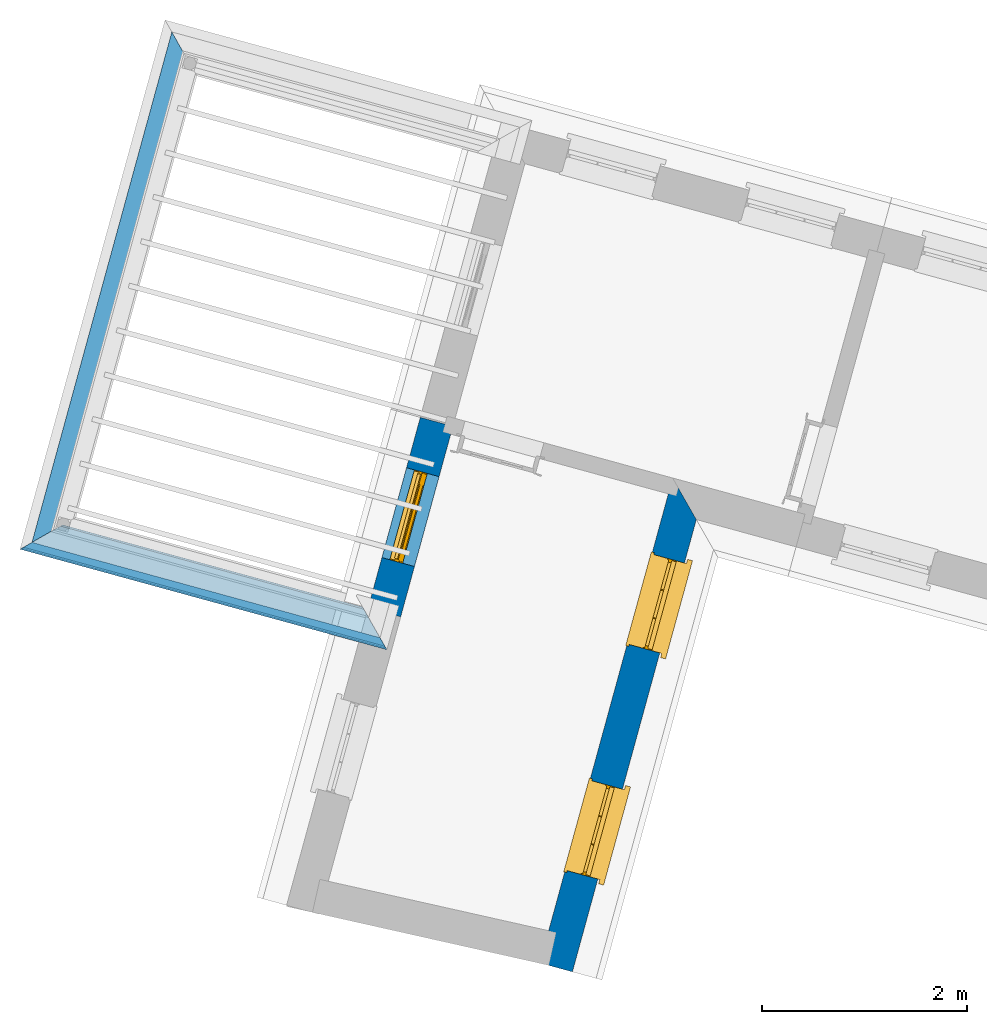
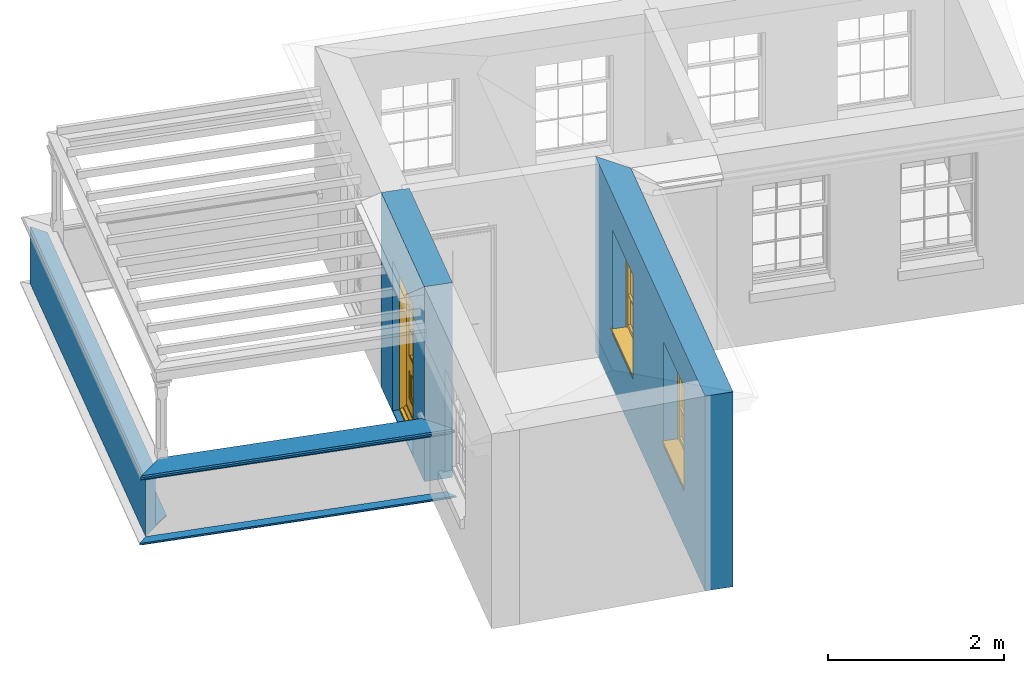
# One storey, part 2 of 5: 5 walls, 2 windows, 1 door, 3 openings.
"""IFC4 building model written with IfcOpenShell, lengths in metres."""

import ifcopenshell
import ifcopenshell.guid

model = None  # the IFC model being written
_history = None  # IfcOwnerHistory: only IFC2X3 demands one
_inside = {}  # id of a spatial element -> (the spatial element, [elements in it])
_under = {}  # id of a project, library or spatial element -> (it, [spatial elements below it])
_declared = {}  # id of a project -> (the project, [libraries it declares])
_typed = {}  # id of a type object -> (the type object, [elements of that type])
_made_of = {}  # id of a material, layer set ... -> (it, [elements and type objects made of it])


def new_model(schema):
    """Start an empty IFC model of exactly this schema.

    Asked for "IFC4X3", IfcOpenShell would pick the latest addendum, in which some entities
    have other attributes; the version numbers below select the first issue.
    IFC2X3 requires an IfcOwnerHistory on every rooted entity: one is made here for all.
    """
    global model, _history
    if schema == "IFC4X3":
        model = ifcopenshell.file(schema_version=(4, 3, 0, 0))
    else:
        model = ifcopenshell.file(schema=schema)
    _inside.clear()
    _under.clear()
    _declared.clear()
    _typed.clear()
    _made_of.clear()
    _history = None
    if model.schema == "IFC2X3":
        org = make("IfcOrganization", Name="unknown")
        user = make(
            "IfcPersonAndOrganization",
            ThePerson=make("IfcPerson", FamilyName="unknown"),
            TheOrganization=org,
        )
        app = make(
            "IfcApplication",
            ApplicationDeveloper=org,
            Version="unknown",
            ApplicationFullName="unknown",
            ApplicationIdentifier="unknown",
        )
        _history = make(
            "IfcOwnerHistory",
            OwningUser=user,
            OwningApplication=app,
            ChangeAction="ADDED",
            CreationDate=0,
        )
    return model


def make(cls, **values):
    """One entity of the class cls with the attributes given. An attribute that is None is left unset."""
    return model.create_entity(
        cls, **{name: value for name, value in values.items() if value is not None}
    )


def rooted(cls, **values):
    """An entity with a GlobalId (a new one), such as an element, a storey or a relation."""
    return make(cls, GlobalId=ifcopenshell.guid.new(), OwnerHistory=_history, **values)


def si_unit(unit_type, name, prefix=None):
    """IfcSIUnit, for example si_unit("LENGTHUNIT", "METRE", prefix="MILLI")."""
    return make("IfcSIUnit", UnitType=unit_type, Prefix=prefix, Name=name)


def assignment(units):
    """IfcUnitAssignment: the units of a project."""
    return None if units is None else make("IfcUnitAssignment", Units=units)


def point(xyz):
    """IfcCartesianPoint."""
    return None if xyz is None else make("IfcCartesianPoint", Coordinates=xyz)


def direction(xyz):
    """IfcDirection."""
    return None if xyz is None else make("IfcDirection", DirectionRatios=xyz)


def frame(location, z_axis=None, x_axis=None):
    """IfcAxis2Placement3D, a coordinate frame: its origin and axes. An axis left out is left unset."""
    return make(
        "IfcAxis2Placement3D",
        Location=point(location),
        Axis=direction(z_axis),
        RefDirection=direction(x_axis),
    )


def origin():
    """The frame at (0, 0, 0) with its axes left unset."""
    return frame((0.0, 0.0, 0.0))


def origin_with_axes():
    """The frame at (0, 0, 0) with the z axis (0, 0, 1) and the x axis (1, 0, 0) written out."""
    return frame((0.0, 0.0, 0.0), z_axis=(0.0, 0.0, 1.0), x_axis=(1.0, 0.0, 0.0))


def place(relative_to, where):
    """IfcLocalPlacement: puts the frame where relative to a parent placement (None: the world)."""
    return make(
        "IfcLocalPlacement", PlacementRelTo=relative_to, RelativePlacement=where
    )


def context(
    kind, dimensions, precision=None, world=None, true_north=None, identifier=None
):
    """IfcGeometricRepresentationContext, for example the 3D "Model" context."""
    return make(
        "IfcGeometricRepresentationContext",
        ContextIdentifier=identifier,
        ContextType=kind,
        CoordinateSpaceDimension=dimensions,
        Precision=precision,
        WorldCoordinateSystem=world,
        TrueNorth=true_north,
    )


def subcontext(parent, identifier, kind, view, scale=None):
    """IfcGeometricRepresentationSubContext, for example "Body" below "Model"."""
    return make(
        "IfcGeometricRepresentationSubContext",
        ContextIdentifier=identifier,
        ContextType=kind,
        ParentContext=parent,
        TargetScale=scale,
        TargetView=view,
    )


def project(units=None, contexts=None):
    """IfcProject with its units and contexts."""
    return rooted(
        "IfcProject",
        Name="project",
        RepresentationContexts=contexts,
        UnitsInContext=assignment(units),
    )


def spatial(cls, under=None, at=None, **own):
    """A site, building, storey or space (cls), placed at a placement, below another one or the project."""
    s = rooted(cls, ObjectPlacement=at, **own)
    if under is not None:
        _under.setdefault(under.id(), (under, []))[1].append(s)
    return s


def polyline(points):
    """IfcPolyline through the points."""
    return make("IfcPolyline", Points=[point(p) for p in points])


def outline(outer, holes=None, kind="AREA"):
    """IfcArbitraryClosedProfileDef: a profile drawn as a closed curve; with holes, ...WithVoids."""
    if holes is None:
        return make("IfcArbitraryClosedProfileDef", ProfileType=kind, OuterCurve=outer)
    return make(
        "IfcArbitraryProfileDefWithVoids",
        ProfileType=kind,
        OuterCurve=outer,
        InnerCurves=holes,
    )


def extrude(swept, where, along, depth):
    """IfcExtrudedAreaSolid: the profile swept, set in the frame where, extruded along a direction by depth."""
    return make(
        "IfcExtrudedAreaSolid",
        SweptArea=swept,
        Position=where,
        ExtrudedDirection=direction(along),
        Depth=depth,
    )


def clip(a, b, op="DIFFERENCE"):
    """IfcBooleanClippingResult: the solid a cut by the half space b."""
    return make(
        "IfcBooleanClippingResult", Operator=op, FirstOperand=a, SecondOperand=b
    )


def halfspace(plane, agree):
    """IfcHalfSpaceSolid: all space on one side of the plane z = 0 of the frame plane."""
    return make(
        "IfcHalfSpaceSolid",
        BaseSurface=make("IfcPlane", Position=plane),
        AgreementFlag=agree,
    )


def faces_of(points, faces, orient=None, outer=None):
    """IfcFace entities. A face is a list of loops; a loop is a list of indices into points, from 0.

    orient and outer hold one flag for each loop. By default every Orientation is true, the
    first loop of a face is its IfcFaceOuterBound and the others are IfcFaceBound.
    """
    made = []
    for i, loops in enumerate(faces):
        bounds = []
        for j, loop in enumerate(loops):
            is_outer = j == 0 if outer is None else outer[i][j]
            bounds.append(
                make(
                    "IfcFaceOuterBound" if is_outer else "IfcFaceBound",
                    Bound=make("IfcPolyLoop", Polygon=[points[k] for k in loop]),
                    Orientation=True if orient is None else orient[i][j],
                )
            )
        made.append(make("IfcFace", Bounds=bounds))
    return made


def faceted_brep(points, faces, orient=None, outer=None, voids=None):
    """IfcFacetedBrep: a solid bounded by flat faces; with voids (closed shells), ...WithVoids."""
    shared = [point(p) for p in points]
    hull = make("IfcClosedShell", CfsFaces=faces_of(shared, faces, orient, outer))
    if voids is None:
        return make("IfcFacetedBrep", Outer=hull)
    return make(
        "IfcFacetedBrepWithVoids",
        Outer=hull,
        Voids=[
            make(cls, CfsFaces=faces_of(shared, fs, o, b)) for cls, fs, o, b in voids
        ],
    )


def shape(context_of_items, identifier, shape_type, items):
    """IfcShapeRepresentation: the items that make up one representation, for example the "Body"."""
    return make(
        "IfcShapeRepresentation",
        ContextOfItems=context_of_items,
        RepresentationIdentifier=identifier,
        RepresentationType=shape_type,
        Items=items,
    )


def source(mapping_origin, context_of_items, identifier, shape_type, items):
    """IfcRepresentationMap: a shape defined once, which mapped items show again and again."""
    return make(
        "IfcRepresentationMap",
        MappingOrigin=mapping_origin,
        MappedRepresentation=shape(context_of_items, identifier, shape_type, items),
    )


def transform(
    local_origin,
    x_axis=None,
    y_axis=None,
    z_axis=None,
    scale=None,
    scale2=None,
    scale3=None,
    uniform=True,
):
    """IfcCartesianTransformationOperator3D, or its non-uniform kind. x_axis, y_axis, z_axis: its Axis1, 2, 3."""
    if uniform:
        return make(
            "IfcCartesianTransformationOperator3D",
            Axis1=direction(x_axis),
            Axis2=direction(y_axis),
            LocalOrigin=point(local_origin),
            Scale=scale,
            Axis3=direction(z_axis),
        )
    return make(
        "IfcCartesianTransformationOperator3DnonUniform",
        Axis1=direction(x_axis),
        Axis2=direction(y_axis),
        LocalOrigin=point(local_origin),
        Scale=scale,
        Axis3=direction(z_axis),
        Scale2=scale2,
        Scale3=scale3,
    )


def mapped(mapping_source, mapping_target):
    """IfcMappedItem: shows the shape of a source again, moved by a transform."""
    return make(
        "IfcMappedItem", MappingSource=mapping_source, MappingTarget=mapping_target
    )


def material(Name=None, Category=None):
    """IfcMaterial."""
    return make("IfcMaterial", Name=Name, Category=Category)


def layer(
    of_material, thickness, ventilated=None, Name=None, Category=None, Priority=None
):
    """IfcMaterialLayer: one layer of a wall or slab, of a material (None: an air gap)."""
    return make(
        "IfcMaterialLayer",
        Material=of_material,
        LayerThickness=thickness,
        IsVentilated=ventilated,
        Name=Name,
        Category=Category,
        Priority=Priority,
    )


def layer_set(layers, Name=None):
    """IfcMaterialLayerSet."""
    return make("IfcMaterialLayerSet", MaterialLayers=layers, LayerSetName=Name)


def layer_usage(for_layer_set, set_direction, sense, offset, extent=None):
    """IfcMaterialLayerSetUsage: how a layer set lies in its element."""
    return make(
        "IfcMaterialLayerSetUsage",
        ForLayerSet=for_layer_set,
        LayerSetDirection=set_direction,
        DirectionSense=sense,
        OffsetFromReferenceLine=offset,
        ReferenceExtent=extent,
    )


def material_profile(
    of_material, cross_section, Name=None, Category=None, Priority=None
):
    """IfcMaterialProfile: a cross section and its material."""
    return make(
        "IfcMaterialProfile",
        Name=Name,
        Material=of_material,
        Profile=cross_section,
        Priority=Priority,
        Category=Category,
    )


def profile_set(profiles, Name=None, composite=None):
    """IfcMaterialProfileSet."""
    return make(
        "IfcMaterialProfileSet",
        Name=Name,
        MaterialProfiles=profiles,
        CompositeProfile=composite,
    )


def profile_usage(for_profile_set, cardinal=None, extent=None):
    """IfcMaterialProfileSetUsage: how a profile set lies along its element."""
    return make(
        "IfcMaterialProfileSetUsage",
        ForProfileSet=for_profile_set,
        CardinalPoint=cardinal,
        ReferenceExtent=extent,
    )


def made_of(thing, what):
    """Note that an element or type object is made of a material, layer set ...; save() writes the relation."""
    if what is not None:
        _made_of.setdefault(what.id(), (what, []))[1].append(thing)
    return thing


def type_object(cls, material=None, **own):
    """A type object (cls), such as IfcWallType, which elements share."""
    return made_of(rooted(cls, **own), material)


def type_shapes(of_type, sources):
    """Give a type object the sources (RepresentationMaps) that its elements show as mapped items."""
    of_type.RepresentationMaps = sources


def element(
    cls,
    number,
    at=None,
    inside=None,
    cuts=None,
    type_object=None,
    material=None,
    context=None,
    identifier="Body",
    shape_type=None,
    held_by="IfcProductDefinitionShape",
    body=None,
    shapes=None,
    **own,
):
    """One element of the class cls, such as IfcWall. Its Tag is "e" and its number.

    at: its placement. inside: the storey or other place that contains it. cuts: it is an
    opening in that element (IfcRelVoidsElement). A single representation is given by context,
    identifier, shape_type and body (its items); several are given by shapes. held_by: the class
    of the entity that holds the representations. save() writes the other relations.
    """
    e = rooted(cls, Tag="e%d" % number, ObjectPlacement=at, **own)
    if body is not None:
        shapes = [shape(context, identifier, shape_type, body)]
    if shapes is not None:
        e.Representation = make(held_by, Representations=shapes)
    if inside is not None:
        _inside.setdefault(inside.id(), (inside, []))[1].append(e)
    if cuts is not None:
        rooted(
            "IfcRelVoidsElement", RelatingBuildingElement=cuts, RelatedOpeningElement=e
        )
    if type_object is not None:
        _typed.setdefault(type_object.id(), (type_object, []))[1].append(e)
    return made_of(e, material)


def fill(opening, filler):
    """IfcRelFillsElement: the door or window that sits in an opening."""
    return rooted(
        "IfcRelFillsElement",
        RelatingOpeningElement=opening,
        RelatedBuildingElement=filler,
    )


def aggregate(whole, parts):
    """IfcRelAggregates: a whole, such as a stair, and the parts it consists of."""
    return rooted("IfcRelAggregates", RelatingObject=whole, RelatedObjects=parts)


def save(model, path):
    """Write the relations noted so far, then the file.

    IfcRelAggregates (storeys below a building ...), IfcRelContainedInSpatialStructure (elements
    in a storey), IfcRelDefinesByType, IfcRelAssociatesMaterial and IfcRelDeclares: one each for
    every whole, place, type object, material and project.
    """
    for whole, parts in _under.values():
        aggregate(whole, parts)
    for where, things in _inside.values():
        rooted(
            "IfcRelContainedInSpatialStructure",
            RelatedElements=things,
            RelatingStructure=where,
        )
    for kind, things in _typed.values():
        rooted("IfcRelDefinesByType", RelatedObjects=things, RelatingType=kind)
    for what, things in _made_of.values():
        rooted("IfcRelAssociatesMaterial", RelatedObjects=things, RelatingMaterial=what)
    for by, libraries in _declared.values():
        rooted("IfcRelDeclares", RelatingContext=by, RelatedDefinitions=libraries)
    model.write(path)


model = new_model("IFC4")

# Units and contexts
model_context = context("Model", 3, world=origin_with_axes())
body_context = subcontext(model_context, "Body", "Model", "MODEL_VIEW")
ifc_project = project(units=[si_unit("PLANEANGLEUNIT", "RADIAN"), si_unit("MASSUNIT", "GRAM", prefix="KILO"), si_unit("FORCEUNIT", "NEWTON", prefix="KILO"), si_unit("LENGTHUNIT", "METRE"), si_unit("AREAUNIT", "SQUARE_METRE"), si_unit("VOLUMEUNIT", "CUBIC_METRE")], contexts=[model_context, model_context])

# Sites, building, storey
site_1_placement = place(None, origin_with_axes())
site_1 = spatial("IfcSite", under=ifc_project, at=site_1_placement, Name="Tamar")
site_2_placement = place(site_1_placement, origin_with_axes())
site_2 = spatial("IfcSite", under=site_1, at=site_2_placement, Name="Site plot-29", CompositionType="ELEMENT")
building_placement = place(None, origin_with_axes())
building = spatial("IfcBuilding", under=site_2, at=building_placement, Name="Building plot-29", CompositionType="ELEMENT")
storey_placement = place(None, frame((0.0, 0.0, 30.55), z_axis=(0.0, 0.0, 1.0), x_axis=(1.0, 0.0, 0.0)))
storey = spatial("IfcBuildingStorey", under=building, at=storey_placement, Name="plot-29 2", CompositionType="ELEMENT", Elevation=30.55)

# Wall, openings, windows
ifc_material = material(Name="Masonry")
ifc_layer = layer(ifc_material, 0.33, ventilated=False)
ifc_layer_set = layer_set([ifc_layer], Name="exterior_0.08_0.25")
ifc_layer_usage = layer_usage(ifc_layer_set, "AXIS2", "POSITIVE", -0.25)
wall_type_1 = type_object("IfcWallType", Name="exterior_0.08_0.25", PredefinedType="SOLIDWALL", material=ifc_layer_set)
wall_1_placement = place(storey_placement, frame((274.630680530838, 257.489366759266, 0.0), z_axis=(0.0, 0.0, 1.0), x_axis=(0.264255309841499, 0.964452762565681, 0.0)))
wall_1 = element("IfcWall", 1, at=wall_1_placement, inside=storey, type_object=wall_type_1, material=ifc_layer_usage, Name="exterior", context=body_context, shape_type="SweptSolid", body=[
    extrude(outline(polyline([(-0.250000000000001, 0.0800000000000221), (-0.250000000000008, -0.250000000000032), (4.33079801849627, -0.250000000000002), (4.66079801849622, 0.0800000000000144), (-0.250000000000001, 0.0800000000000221)])), origin_with_axes(), (0.0, 0.0, 1.0), 2.7),
])
opening_1_placement = place(wall_1_placement, frame((0.690199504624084, 0.0, 0.75)))
opening_1 = element("IfcOpeningElement", 2, at=opening_1_placement, cuts=wall_1, Name="My Opening", ObjectType="Opening", context=body_context, shape_type="SweptSolid", body=[
    extrude(outline(polyline([(0.0, -0.270000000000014), (0.909999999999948, -0.270000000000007), (0.909999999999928, 1.1), (-2.03170813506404e-14, 1.09999999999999), (0.0, -0.270000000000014)])), origin_with_axes(), (0.0, 0.0, 1.0), 1.445),
])
opening_2_placement = place(wall_1_placement, frame((2.98059851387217, 0.0, 0.75)))
opening_2 = element("IfcOpeningElement", 3, at=opening_2_placement, cuts=wall_1, Name="My Opening", ObjectType="Opening", context=body_context, shape_type="SweptSolid", body=[
    extrude(outline(polyline([(0.0, -0.270000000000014), (0.909999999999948, -0.270000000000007), (0.909999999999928, 1.1), (-1.99840144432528e-14, 1.09999999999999), (0.0, -0.270000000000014)])), origin_with_axes(), (0.0, 0.0, 1.0), 1.445),
])
window_type = type_object("IfcWindowType", Name="sash_shorter", PartitioningType="DOUBLE_PANEL_HORIZONTAL", PredefinedType="NOTDEFINED")
shared_shape_1 = source(origin(), body_context, "Body", "Brep", [
    faceted_brep([(0.876875, 0.145, 0.999097), (0.876875, 0.145, 1.411875), (0.9, 0.145, 1.435), (0.033125, 0.145, 1.411875), (0.033125, 0.145, 0.999097), (0.01, 0.145, 1.435), (0.033125, 0.115, 1.411875), (0.01, 0.115, 1.435), (0.033125, 0.115, 0.999097), (0.876875, 0.115, 1.411875), (0.876875, 0.115, 0.999097), (0.9, 0.115, 1.435), (0.033125, 0.145, 0.960972), (0.01, 0.145, 0.960972), (0.033125, 0.145, 0.548195), (0.876875, 0.145, 0.960972), (0.876875, 0.145, 0.548195), (0.9, 0.145, 0.960972), (0.876875, 0.145, 0.538195), (0.876875, 0.145, 0.125417), (0.9, 0.145, 0.077167), (0.033125, 0.145, 0.125417), (0.033125, 0.145, 0.538195), (0.01, 0.145, 0.077167), (0.9, 0.115, 0.960972), (0.01, 0.115, 0.960972), (-0.0425, 0.0, 0.01), (-0.0425, -0.05, 0.001667), (0.0, 0.0, 0.01), (0.9525, 0.0, 0.01), (0.91, 0.0, 0.01), (0.9525, -0.05, 0.001667), (-0.02, 0.33, 0.077167), (0.0, 0.33, 0.077167), (-0.02, 0.36, 0.077167), (0.0, 0.19, 0.077167), (0.01, 0.19, 0.077167), (0.91, 0.19, 0.077167), (0.91, 0.33, 0.077167), (0.9, 0.19, 0.077167), (0.93, 0.33, 0.077167), (0.93, 0.36, 0.077167), (0.01, 0.145, 0.999097), (0.01, 0.175, 0.999097), (0.9, 0.145, 0.999097), (0.9, 0.175, 0.999097), (0.876875, 0.175, 0.125417), (0.876875, 0.175, 0.538195), (0.9, 0.175, 0.077167), (0.876875, 0.175, 0.548195), (0.876875, 0.175, 0.960972), (0.033125, 0.175, 0.125417), (0.01, 0.175, 0.077167), (0.033125, 0.175, 0.538195), (0.033125, 0.175, 0.960972), (0.033125, 0.175, 0.548195), (-0.02, 0.33, 0.052167), (-0.02, 0.36, 0.052167), (0.93, 0.36, 0.052167), (0.93, 0.33, 0.052167), (0.91, 0.33, 0.052167), (0.0, 0.33, 0.052167), (0.91, 0.1, 0.026667), (0.0, 0.1, 0.026667), (-0.0425, -0.05, -0.123333), (0.9525, -0.05, -0.123333), (-0.0425, 0.0, -0.123333), (0.9525, 0.0, -0.123333), (0.01, 0.19, 1.435), (0.9, 0.19, 1.435), (0.0, 0.19, 1.445), (0.91, 0.19, 1.445), (0.01, 0.1, 0.077167), (0.9, 0.1, 0.077167), (0.592292, 0.145, 0.125417), (0.592292, 0.175, 0.125417), (0.317708, 0.175, 0.125417), (0.317708, 0.145, 0.125417), (0.592292, 0.145, 0.548195), (0.317708, 0.145, 0.548195), (0.317708, 0.145, 0.538195), (0.592292, 0.145, 0.538195), (0.592292, 0.175, 0.548195), (0.317708, 0.175, 0.548195), (0.602292, 0.175, 0.548195), (0.602292, 0.145, 0.548195), (0.317708, 0.175, 0.538195), (0.307708, 0.175, 0.125417), (0.307708, 0.175, 0.538195), (0.602292, 0.175, 0.538195), (0.602292, 0.175, 0.125417), (0.592292, 0.175, 0.538195), (0.307708, 0.175, 0.548195), (0.317708, 0.175, 0.960972), (0.307708, 0.175, 0.960972), (0.602292, 0.175, 0.960972), (0.592292, 0.175, 0.960972), (0.307708, 0.145, 0.538195), (0.307708, 0.145, 0.125417), (0.307708, 0.145, 0.548195), (0.307708, 0.145, 0.960972), (0.592292, 0.145, 0.960972), (0.317708, 0.145, 0.960972), (0.602292, 0.145, 0.960972), (0.602292, 0.145, 0.538195), (0.602292, 0.145, 0.125417), (0.317708, 0.115, 1.411875), (0.307708, 0.115, 1.411875), (0.307708, 0.115, 0.999097), (0.317708, 0.115, 0.999097), (0.602292, 0.115, 1.411875), (0.592292, 0.115, 1.411875), (0.592292, 0.115, 0.999097), (0.602292, 0.115, 0.999097), (0.317708, 0.145, 0.999097), (0.307708, 0.145, 0.999097), (0.307708, 0.145, 1.411875), (0.317708, 0.145, 1.411875), (0.602292, 0.145, 0.999097), (0.592292, 0.145, 0.999097), (0.592292, 0.145, 1.411875), (0.602292, 0.145, 1.411875), (0.91, 0.1, 1.445), (0.9, 0.1, 1.435), (0.01, 0.1, 1.435), (0.0, 0.1, 1.445), (0.91, 0.0, 0.0), (0.0, 0.0, 0.0), (0.91, 0.33, 0.0), (0.0, 0.33, 0.0)], [[[0, 1, 2]], [[3, 4, 5]], [[6, 7, 8]], [[9, 10, 11]], [[12, 13, 14]], [[15, 16, 17]], [[18, 19, 20]], [[21, 22, 23]], [[24, 15, 17]], [[13, 12, 25]], [[26, 27, 28]], [[29, 30, 31]], [[32, 33, 34]], [[35, 36, 33]], [[37, 38, 39]], [[40, 41, 38]], [[42, 4, 43]], [[44, 45, 0]], [[46, 47, 48]], [[49, 50, 45]], [[51, 52, 53]], [[54, 55, 43]], [[38, 33, 36, 39]], [[41, 34, 33, 38]], [[56, 32, 34, 57]], [[57, 34, 41, 58]], [[58, 41, 40, 59]], [[57, 58, 60, 61]], [[52, 48, 39, 36]], [[62, 63, 28, 30]], [[27, 31, 30, 28]], [[27, 64, 65, 31]], [[66, 67, 65, 64]], [[2, 5, 68, 69]], [[68, 70, 71, 69]], [[20, 23, 72, 73]], [[73, 72, 63, 62]], [[74, 75, 76, 77]], [[78, 79, 80, 81]], [[78, 82, 83, 79]], [[16, 49, 84, 85]], [[86, 76, 87, 88]], [[89, 90, 75, 91]], [[92, 88, 53, 55]], [[82, 91, 86, 83]], [[93, 83, 92, 94]], [[95, 84, 82, 96]], [[89, 84, 49, 47]], [[97, 88, 87, 98]], [[22, 53, 88, 97]], [[81, 91, 75, 74]], [[80, 86, 91, 81]], [[77, 76, 86, 80]], [[99, 92, 55, 14]], [[100, 94, 92, 99]], [[101, 96, 82, 78]], [[79, 83, 93, 102]], [[85, 84, 95, 103]], [[104, 89, 47, 18]], [[105, 90, 89, 104]], [[104, 18, 16, 85]], [[80, 97, 98, 77]], [[104, 81, 74, 105]], [[103, 101, 78, 85]], [[99, 14, 22, 97]], [[102, 100, 99, 79]], [[106, 107, 108, 109]], [[110, 111, 112, 113]], [[114, 115, 116, 117]], [[118, 119, 120, 121]], [[107, 116, 115, 108]], [[111, 120, 119, 112]], [[109, 114, 117, 106]], [[113, 118, 121, 110]], [[85, 78, 81, 104]], [[84, 89, 91, 82]], [[83, 86, 88, 92]], [[79, 99, 97, 80]], [[109, 112, 119, 114]], [[102, 93, 96, 101]], [[106, 117, 120, 111]], [[98, 87, 51, 21]], [[6, 3, 116, 107]], [[110, 121, 1, 9]], [[19, 46, 90, 105]], [[26, 66, 64, 27]], [[29, 31, 65, 67]], [[25, 24, 112, 109]], [[11, 7, 106, 111]], [[75, 48, 52, 76]], [[43, 45, 96, 93]], [[45, 43, 114, 119]], [[5, 2, 120, 117]], [[24, 25, 102, 101]], [[42, 5, 4]], [[2, 44, 0]], [[49, 45, 48, 47]], [[52, 43, 55, 53]], [[14, 13, 23, 22]], [[20, 17, 16, 18]], [[24, 11, 10]], [[25, 8, 7]], [[8, 4, 3, 6]], [[9, 1, 0, 10]], [[15, 50, 49, 16]], [[18, 47, 46, 19]], [[21, 51, 53, 22]], [[14, 55, 54, 12]], [[44, 2, 69, 45]], [[68, 5, 42, 43]], [[36, 35, 70, 68]], [[39, 69, 71, 37]], [[62, 122, 123, 73]], [[63, 72, 124, 125]], [[8, 108, 115, 4]], [[113, 10, 0, 118]], [[94, 100, 12, 54]], [[17, 20, 73, 24]], [[72, 23, 13, 25]], [[52, 36, 68, 43]], [[69, 39, 48, 45]], [[11, 24, 73, 123]], [[7, 124, 72, 25]], [[23, 77, 98]], [[98, 21, 23]], [[105, 74, 20]], [[20, 19, 105]], [[20, 74, 77, 23]], [[113, 112, 24]], [[24, 10, 113]], [[25, 109, 108]], [[108, 8, 25]], [[110, 9, 11]], [[11, 111, 110]], [[7, 6, 107]], [[107, 106, 7]], [[5, 117, 116]], [[116, 3, 5]], [[121, 120, 2]], [[2, 1, 121]], [[11, 123, 124, 7]], [[122, 125, 124, 123]], [[43, 93, 94]], [[94, 54, 43]], [[96, 45, 95]], [[50, 95, 45]], [[15, 103, 95, 50]], [[48, 75, 90]], [[90, 46, 48]], [[87, 76, 52]], [[52, 51, 87]], [[103, 15, 24]], [[24, 101, 103]], [[100, 102, 25]], [[25, 12, 100]], [[115, 114, 43]], [[43, 4, 115]], [[118, 0, 45]], [[45, 119, 118]], [[71, 70, 125, 122]], [[70, 35, 63, 125]], [[122, 62, 37, 71]], [[126, 67, 66, 127]], [[60, 58, 59]], [[38, 60, 59, 40]], [[61, 56, 57]], [[32, 56, 61, 33]], [[61, 60, 128, 129]], [[62, 60, 38, 37]], [[126, 128, 60, 62]], [[33, 61, 63, 35]], [[61, 129, 127, 63]], [[128, 126, 127, 129]], [[28, 127, 66, 26]], [[63, 127, 28]], [[29, 67, 126, 30]], [[30, 126, 62]]]),
])
type_shapes(window_type, [shared_shape_1])
window_1_placement = place(storey_placement, frame((275.073471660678, 258.083682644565, 0.75), z_axis=(0.0, 0.0, 1.0), x_axis=(0.240472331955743, 0.877652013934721, 0.0)))
window_1 = element("IfcWindow", 4, at=window_1_placement, inside=storey, type_object=window_type, Name="bedroom outside window", OverallHeight=1.445, OverallWidth=0.91, context=body_context, shape_type="MappedRepresentation", body=[
    mapped(shared_shape_1, transform((0.0, 0.0, 0.0), scale=1.0)),
])
fill(opening_1, window_1)
window_2_placement = place(storey_placement, frame((275.678721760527, 260.292664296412, 0.75), z_axis=(0.0, 0.0, 1.0), x_axis=(0.240472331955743, 0.877652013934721, 0.0)))
window_2 = element("IfcWindow", 5, at=window_2_placement, inside=storey, type_object=window_type, Name="bedroom outside window", OverallHeight=1.445, OverallWidth=0.91, context=body_context, shape_type="MappedRepresentation", body=[
    mapped(shared_shape_1, transform((0.0, 0.0, 0.0), scale=1.0)),
])
fill(opening_2, window_2)

# Wall, opening, door
wall_2_placement = place(storey_placement, frame((273.561502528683, 262.531950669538, 0.0), z_axis=(0.0, 0.0, 1.0), x_axis=(-0.264255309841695, -0.964452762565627, 0.0)))
wall_2 = element("IfcWall", 6, at=wall_2_placement, inside=storey, type_object=wall_type_1, material=ifc_layer_usage, Name="exterior", context=body_context, shape_type="SweptSolid", body=[
    extrude(outline(polyline([(-5.18843154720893e-14, 0.0800000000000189), (6.28539312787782e-14, -0.25000000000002), (1.92994079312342, -0.24999999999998), (1.92994079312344, 0.0799999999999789), (-5.18843154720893e-14, 0.0800000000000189)])), origin_with_axes(), (0.0, 0.0, 1.0), 2.7),
])
opening_3_placement = place(wall_2_placement, frame((0.509970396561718, 0.0, 0.0199999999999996)))
opening_3 = element("IfcOpeningElement", 7, at=opening_3_placement, cuts=wall_2, Name="My Opening", ObjectType="Opening", context=body_context, shape_type="SweptSolid", body=[
    extrude(outline(polyline([(0.0, -0.269999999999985), (0.909999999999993, -0.269999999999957), (0.909999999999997, 1.10000000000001), (3.77475828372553e-15, 1.09999999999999), (0.0, -0.269999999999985)])), origin_with_axes(), (0.0, 0.0, 1.0), 2.08),
])
door_type = type_object("IfcDoorType", Name="door_panelled", OperationType="SINGLE_SWING_LEFT", PredefinedType="NOTDEFINED")
shared_shape_2 = source(origin(), body_context, "Body", "Brep", [
    faceted_brep([(0.545, 0.195, 0.265), (0.745, 0.195, 0.265), (0.745, 0.2, 0.265), (0.545, 0.2, 0.265), (0.745, 0.2, 0.58), (0.545, 0.2, 0.58), (0.545, 0.195, 0.58), (0.515, 0.19, 0.235), (0.775, 0.19, 0.235), (0.745, 0.195, 0.58), (0.515, 0.19, 0.61), (0.515, 0.185, 0.235), (0.775, 0.185, 0.235), (0.775, 0.19, 0.61), (0.515, 0.185, 0.61), (0.785, 0.185, 0.225), (0.505, 0.185, 0.225), (0.775, 0.185, 0.61), (0.505, 0.185, 0.62), (0.785, 0.185, 0.62), (0.505, 0.18, 0.225), (0.785, 0.18, 0.225), (0.505, 0.18, 0.62), (0.785, 0.18, 0.62), (0.883, 0.18, 0.075), (0.898, 0.18, 0.075), (0.405, 0.18, 0.62), (0.405, 0.18, 0.225), (0.027, 0.18, 0.075), (0.785, 0.18, 0.82), (0.125, 0.18, 0.82), (0.405, 0.185, 0.62), (0.405, 0.185, 0.225), (0.898, 0.18, 2.068), (0.027, 0.17, 0.075), (0.883, 0.17, 0.075), (0.125, 0.18, 0.225), (0.012, 0.18, 0.075), (0.785, 0.19, 0.82), (0.125, 0.19, 0.82), (0.125, 0.18, 0.62), (0.125, 0.185, 0.62), (0.395, 0.185, 0.61), (0.395, 0.185, 0.235), (0.125, 0.185, 0.225), (0.785, 0.18, 1.895), (0.027, 0.14, 0.045), (0.883, 0.14, 0.045), (0.558333, 0.19, 0.83), (0.351667, 0.19, 0.83), (0.125, 0.18, 1.895), (0.125, 0.19, 1.895), (0.785, 0.19, 1.895), (0.012, 0.18, 2.068), (0.135, 0.185, 0.61), (0.395, 0.19, 0.61), (0.395, 0.19, 0.235), (0.135, 0.185, 0.235), (0.027, 0.14, 0.027), (0.883, 0.14, 0.027), (0.568333, 0.19, 0.83), (0.558333, 0.22, 0.83), (0.351667, 0.22, 0.83), (0.341667, 0.19, 0.83), (0.135, 0.19, 1.185), (0.135, 0.19, 1.53), (0.775, 0.19, 1.53), (0.775, 0.19, 1.185), (0.135, 0.19, 0.61), (0.365, 0.195, 0.58), (0.365, 0.195, 0.265), (0.135, 0.19, 0.235), (0.568333, 0.19, 1.175), (0.558333, 0.19, 1.175), (0.775, 0.19, 0.83), (0.558333, 0.22, 1.175), (0.785, 0.22, 0.82), (0.125, 0.22, 0.82), (0.351667, 0.22, 1.175), (0.351667, 0.19, 1.175), (0.341667, 0.19, 1.175), (0.135, 0.19, 0.83), (0.135, 0.19, 1.175), (0.135, 0.22, 1.185), (0.135, 0.22, 1.53), (0.135, 0.19, 1.54), (0.351667, 0.19, 1.885), (0.558333, 0.19, 1.885), (0.775, 0.22, 1.53), (0.775, 0.22, 1.185), (0.775, 0.19, 1.175), (0.775, 0.19, 1.54), (0.165, 0.195, 0.58), (0.365, 0.2, 0.58), (0.365, 0.2, 0.265), (0.165, 0.195, 0.265), (0.568333, 0.22, 0.83), (0.568333, 0.22, 1.175), (0.568333, 0.19, 1.185), (0.558333, 0.19, 1.185), (0.775, 0.22, 0.83), (0.785, 0.23, 0.82), (0.125, 0.23, 0.82), (0.341667, 0.22, 0.83), (0.341667, 0.22, 1.175), (0.351667, 0.19, 1.185), (0.341667, 0.19, 1.185), (0.135, 0.22, 0.83), (0.341667, 0.22, 1.185), (0.125, 0.22, 1.895), (0.341667, 0.22, 1.53), (0.341667, 0.19, 1.53), (0.135, 0.19, 1.885), (0.341667, 0.19, 1.54), (0.341667, 0.19, 1.885), (0.558333, 0.22, 1.885), (0.351667, 0.22, 1.885), (0.568333, 0.19, 1.885), (0.785, 0.22, 1.895), (0.568333, 0.22, 1.185), (0.568333, 0.19, 1.53), (0.568333, 0.22, 1.53), (0.568333, 0.19, 1.54), (0.775, 0.19, 1.885), (0.165, 0.2, 0.58), (0.165, 0.2, 0.265), (0.775, 0.22, 1.175), (0.558333, 0.19, 1.53), (0.351667, 0.22, 1.185), (0.558333, 0.22, 1.185), (0.505, 0.23, 0.62), (0.405, 0.23, 0.62), (0.125, 0.23, 1.895), (0.785, 0.23, 1.895), (0.351667, 0.19, 1.53), (0.135, 0.22, 1.175), (0.135, 0.22, 1.54), (0.341667, 0.22, 1.54), (0.135, 0.22, 1.885), (0.351667, 0.19, 1.54), (0.558333, 0.22, 1.54), (0.558333, 0.19, 1.54), (0.351667, 0.22, 1.54), (0.775, 0.22, 1.54), (0.568333, 0.22, 1.54), (0.775, 0.22, 1.885), (0.558333, 0.22, 1.53), (0.405, 0.23, 0.225), (0.505, 0.23, 0.225), (0.125, 0.23, 0.62), (0.785, 0.23, 0.62), (0.012, 0.23, 2.068), (0.898, 0.23, 2.068), (0.351667, 0.22, 1.53), (0.341667, 0.22, 1.885), (0.568333, 0.22, 1.885), (0.405, 0.225, 0.225), (0.405, 0.225, 0.62), (0.505, 0.225, 0.62), (0.505, 0.225, 0.225), (0.898, 0.23, 0.027), (0.012, 0.23, 0.027), (0.125, 0.225, 0.62), (0.785, 0.225, 0.62), (0.395, 0.225, 0.235), (0.395, 0.225, 0.61), (0.125, 0.23, 0.225), (0.125, 0.225, 0.225), (0.515, 0.225, 0.61), (0.515, 0.225, 0.235), (0.785, 0.23, 0.225), (0.785, 0.225, 0.225), (0.135, 0.225, 0.61), (0.775, 0.225, 0.61), (0.135, 0.225, 0.235), (0.395, 0.22, 0.235), (0.395, 0.22, 0.61), (0.515, 0.22, 0.61), (0.515, 0.22, 0.235), (0.775, 0.225, 0.235), (0.135, 0.22, 0.61), (0.775, 0.22, 0.61), (0.135, 0.22, 0.235), (0.365, 0.215, 0.265), (0.365, 0.215, 0.58), (0.545, 0.215, 0.58), (0.545, 0.215, 0.265), (0.775, 0.22, 0.235), (0.165, 0.215, 0.58), (0.745, 0.215, 0.58), (0.165, 0.215, 0.265), (0.365, 0.21, 0.58), (0.365, 0.21, 0.265), (0.545, 0.21, 0.58), (0.545, 0.21, 0.265), (0.745, 0.215, 0.265), (0.165, 0.21, 0.58), (0.745, 0.21, 0.58), (0.165, 0.21, 0.265), (0.745, 0.21, 0.265), (0.885, 0.178, 0.025), (0.025, 0.178, 0.025), (0.025, 0.15, 0.025), (0.885, 0.15, 0.025), (0.9, 0.23, 0.025), (0.01, 0.23, 0.025), (0.9, 0.178, 0.025), (0.91, 0.23, 0.0), (0.0, 0.23, 0.0), (0.01, 0.178, 0.025), (0.9, 0.178, 2.07), (0.9, 0.23, 2.07), (0.885, 0.178, 2.055), (0.91, 0.23, 2.08), (0.01, 0.23, 2.07), (0.0, 0.23, 2.08), (0.01, 0.178, 2.07), (0.025, 0.178, 2.055), (0.0, 0.1, 2.08), (0.91, 0.1, 2.08), (0.01, 0.1, 2.07), (0.9, 0.1, 2.07), (0.01, 0.15, 2.07), (0.9, 0.15, 2.07), (0.0, 0.1, 0.0), (0.91, 0.1, 0.0), (0.01, 0.1, 0.025), (0.9, 0.1, 0.025), (0.01, 0.15, 0.025), (0.025, 0.15, 2.055), (0.9, 0.15, 0.025), (0.885, 0.15, 2.055), (0.898, 0.18, 0.027), (0.012, 0.18, 0.027), (0.883, 0.18, 0.027), (0.027, 0.18, 0.027)], [[[0, 1, 2, 3]], [[2, 4, 5, 3]], [[0, 3, 5, 6]], [[1, 0, 7, 8]], [[9, 4, 2, 1]], [[9, 6, 5, 4]], [[0, 6, 10, 7]], [[8, 7, 11, 12]], [[8, 13, 9, 1]], [[13, 10, 6, 9]], [[7, 10, 14, 11]], [[15, 12, 11, 16]], [[12, 17, 13, 8]], [[17, 14, 10, 13]], [[18, 16, 11, 14]], [[15, 19, 17, 12]], [[15, 16, 20, 21]], [[14, 17, 19, 18]], [[16, 18, 22, 20]], [[21, 23, 19, 15]], [[24, 25, 21, 20]], [[23, 22, 18, 19]], [[20, 22, 26, 27]], [[23, 21, 25]], [[28, 24, 20, 27]], [[22, 23, 29]], [[29, 30, 26, 22]], [[27, 26, 31, 32]], [[23, 25, 33, 29]], [[34, 35, 24, 28]], [[28, 27, 36, 37]], [[38, 39, 30, 29]], [[26, 30, 40]], [[26, 40, 41, 31]], [[42, 43, 32, 31]], [[32, 44, 36, 27]], [[33, 45, 29]], [[46, 47, 35, 34]], [[36, 40, 37]], [[39, 38, 48, 49]], [[50, 30, 39, 51]], [[29, 45, 52, 38]], [[53, 37, 40, 30]], [[44, 41, 40, 36]], [[31, 41, 54, 42]], [[43, 42, 55, 56]], [[57, 44, 32, 43]], [[50, 45, 33, 53]], [[47, 46, 58, 59]], [[60, 48, 38]], [[49, 48, 61, 62]], [[49, 63, 39]], [[50, 53, 30]], [[51, 39, 64, 65]], [[45, 50, 51, 52]], [[66, 67, 38, 52]], [[57, 54, 41, 44]], [[42, 54, 68, 55]], [[56, 55, 69, 70]], [[56, 71, 57, 43]], [[60, 72, 73, 48]], [[60, 38, 74]], [[48, 73, 75, 61]], [[76, 77, 62, 61]], [[62, 78, 79, 49]], [[49, 79, 80, 63]], [[63, 81, 39]], [[82, 64, 39]], [[65, 64, 83, 84]], [[85, 51, 65]], [[52, 51, 86, 87]], [[88, 89, 67, 66]], [[90, 38, 67]], [[91, 66, 52]], [[71, 68, 54, 57]], [[55, 68, 92, 69]], [[69, 93, 94, 70]], [[70, 95, 71, 56]], [[96, 97, 72, 60]], [[73, 72, 98, 99]], [[74, 38, 90]], [[100, 96, 60, 74]], [[75, 73, 79, 78]], [[61, 75, 97, 96]], [[101, 102, 77, 76]], [[77, 103, 62]], [[96, 76, 61]], [[103, 104, 78, 62]], [[80, 79, 105, 106]], [[63, 80, 104, 103]], [[81, 63, 103, 107]], [[81, 82, 39]], [[106, 64, 82, 80]], [[106, 108, 83, 64]], [[84, 83, 77, 109]], [[110, 111, 65, 84]], [[112, 51, 85]], [[113, 85, 65, 111]], [[114, 86, 51]], [[115, 87, 86, 116]], [[117, 52, 87]], [[118, 76, 89, 88]], [[119, 98, 67, 89]], [[120, 121, 88, 66]], [[67, 98, 72, 90]], [[91, 122, 120, 66]], [[91, 52, 123]], [[95, 92, 68, 71]], [[69, 92, 124, 93]], [[94, 93, 124, 125]], [[94, 125, 95, 70]], [[72, 97, 126, 90]], [[127, 99, 98, 120]], [[99, 105, 79, 73]], [[74, 90, 126, 100]], [[96, 100, 76]], [[128, 129, 75, 78]], [[97, 75, 129, 119]], [[130, 131, 102, 101]], [[109, 77, 102, 132]], [[133, 101, 76, 118]], [[77, 107, 103]], [[78, 104, 108, 128]], [[111, 106, 105, 134]], [[104, 80, 82, 135]], [[107, 135, 82, 81]], [[110, 108, 106, 111]], [[104, 135, 83, 108]], [[83, 135, 77]], [[136, 84, 109]], [[110, 84, 136, 137]], [[114, 51, 112]], [[85, 136, 138, 112]], [[113, 137, 136, 85]], [[111, 134, 139, 113]], [[86, 114, 113, 139]], [[140, 141, 87, 115]], [[139, 142, 116, 86]], [[109, 118, 115, 116]], [[117, 123, 52]], [[117, 87, 141, 122]], [[126, 89, 76]], [[143, 118, 88]], [[120, 98, 119, 121]], [[119, 89, 126, 97]], [[144, 143, 88, 121]], [[144, 122, 91, 143]], [[127, 120, 122, 141]], [[143, 91, 123, 145]], [[124, 92, 95, 125]], [[146, 129, 99, 127]], [[99, 129, 128, 105]], [[100, 126, 76]], [[121, 119, 129, 146]], [[147, 131, 130, 148]], [[131, 149, 102]], [[130, 101, 150]], [[102, 151, 132]], [[118, 109, 132, 133]], [[101, 133, 152]], [[107, 77, 135]], [[153, 128, 108, 110]], [[134, 105, 128, 153]], [[109, 138, 136]], [[153, 110, 137, 142]], [[154, 114, 112, 138]], [[137, 113, 114, 154]], [[141, 139, 134, 127]], [[141, 140, 142, 139]], [[144, 140, 115, 155]], [[142, 137, 154, 116]], [[155, 115, 118]], [[116, 154, 109]], [[117, 155, 145, 123]], [[122, 144, 155, 117]], [[143, 145, 118]], [[121, 146, 140, 144]], [[146, 127, 134, 153]], [[156, 157, 131, 147]], [[148, 130, 158, 159]], [[148, 160, 161, 147]], [[157, 162, 149, 131]], [[161, 151, 102, 149]], [[101, 152, 160, 150]], [[163, 158, 130, 150]], [[151, 152, 133, 132]], [[154, 138, 109]], [[142, 140, 146, 153]], [[145, 155, 118]], [[157, 156, 164, 165]], [[147, 166, 167, 156]], [[168, 169, 159, 158]], [[170, 148, 159, 171]], [[148, 170, 160]], [[166, 147, 161]], [[172, 162, 157, 165]], [[166, 149, 162, 167]], [[166, 161, 149]], [[150, 160, 170]], [[163, 173, 168, 158]], [[171, 163, 150, 170]], [[174, 164, 156, 167]], [[175, 176, 165, 164]], [[169, 168, 177, 178]], [[171, 159, 169, 179]], [[167, 162, 172, 174]], [[176, 180, 172, 165]], [[179, 173, 163, 171]], [[181, 177, 168, 173]], [[164, 174, 182, 175]], [[183, 184, 176, 175]], [[178, 177, 185, 186]], [[179, 169, 178, 187]], [[174, 172, 180, 182]], [[184, 188, 180, 176]], [[187, 181, 173, 179]], [[189, 185, 177, 181]], [[175, 182, 190, 183]], [[191, 184, 183, 192]], [[185, 193, 194, 186]], [[187, 178, 186, 195]], [[182, 180, 188, 190]], [[191, 196, 188, 184]], [[195, 189, 181, 187]], [[197, 193, 185, 189]], [[183, 190, 198, 192]], [[198, 196, 191, 192]], [[194, 193, 197, 199]], [[195, 186, 194, 199]], [[188, 196, 198, 190]], [[197, 189, 195, 199]], [[200, 201, 202, 203]], [[201, 200, 204, 205]], [[206, 204, 200]], [[204, 207, 208, 205]], [[209, 201, 205]], [[210, 211, 204, 206]], [[206, 200, 212, 210]], [[211, 213, 207, 204]], [[214, 205, 208, 215]], [[216, 217, 201, 209]], [[205, 214, 216, 209]], [[216, 214, 211, 210]], [[210, 212, 217, 216]], [[214, 215, 213, 211]], [[218, 219, 213, 215]], [[219, 218, 220, 221]], [[221, 220, 222, 223]], [[215, 208, 224, 218]], [[225, 224, 208, 207]], [[224, 226, 220, 218]], [[224, 225, 227, 226]], [[219, 225, 207, 213]], [[228, 222, 220, 226]], [[219, 221, 227, 225]], [[226, 227, 203, 202]], [[202, 229, 222, 228]], [[228, 226, 202]], [[227, 221, 223, 230]], [[230, 203, 227]], [[217, 229, 202, 201]], [[231, 223, 222, 229]], [[230, 223, 231, 203]], [[231, 229, 217, 212]], [[212, 200, 203, 231]], [[33, 152, 151, 53]], [[25, 160, 152, 33]], [[161, 37, 53, 151]], [[232, 160, 25]], [[161, 233, 37]], [[160, 232, 234]], [[24, 234, 232, 25]], [[233, 161, 235]], [[37, 233, 235, 28]], [[161, 160, 234, 235]], [[35, 47, 234, 24]], [[28, 235, 46, 34]], [[58, 235, 234, 59]], [[59, 234, 47]], [[58, 46, 235]]]),
])
type_shapes(door_type, [shared_shape_2])
door_placement = place(storey_placement, frame((273.166337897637, 262.111457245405, 0.0199999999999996), z_axis=(0.0, 0.0, 1.0), x_axis=(-0.240472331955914, -0.877652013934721, 0.0)))
door = element("IfcDoor", 8, at=door_placement, inside=storey, type_object=door_type, Name="bedroom outside door", OverallHeight=2.08, OverallWidth=0.91, context=body_context, shape_type="MappedRepresentation", body=[
    mapped(shared_shape_2, transform((0.0, 0.0, 0.0), scale=1.0)),
])
fill(opening_3, door)

# Walls
ifc_material_profile_1 = material_profile(None, outline(polyline([(0.25, 0.0), (0.25, 0.795), (0.09, 0.795), (0.09, 0.02), (-0.08, 0.02), (-0.08, 0.0), (0.25, 0.0)])))
ifc_profile_set_1 = profile_set([ifc_material_profile_1])
ifc_profile_usage_1 = profile_usage(ifc_profile_set_1)
wall_type_2 = type_object("IfcWallType", Name="parapet_0", PredefinedType="PARAPET", material=ifc_profile_set_1)
wall_3_placement = place(storey_placement, frame((269.570228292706, 260.587609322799, 0.0), z_axis=(0.264255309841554, 0.964452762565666, 0.0), x_axis=(-0.964452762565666, 0.264255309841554, 0.0)))
element("IfcWall", 9, at=wall_3_placement, inside=storey, type_object=wall_type_2, material=ifc_profile_usage_1, Name="parapet_0", context=body_context, shape_type="Clipping", body=[
    clip(clip(extrude(outline(polyline([(0.25, 0.0), (0.25, 0.795), (0.09, 0.795), (0.09, 0.02), (-0.08, 0.02), (-0.08, 0.0), (0.25, 0.0)])), origin_with_axes(), (0.0, 0.0, 1.0), 6.66904651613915), halfspace(frame((0.0, 0.0, 5.66904651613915), z_axis=(0.707106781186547, 0.0, -0.707106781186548), x_axis=(0.0, 1.0, 0.0)), True)), halfspace(frame((0.0, 0.0, 1.0), z_axis=(-0.707106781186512, 0.0, -0.707106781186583), x_axis=(0.0, 1.0, 0.0)), False)),
])
ifc_material_profile_2 = material_profile(None, outline(polyline([(0.265, 0.795), (0.268, 0.807), (0.274, 0.816), (0.283, 0.822), (0.295, 0.825), (0.295, 0.84), (0.305, 0.84), (0.317, 0.842), (0.326, 0.849), (0.333, 0.858), (0.335, 0.87), (0.333, 0.882), (0.326, 0.891), (0.317, 0.898), (0.305, 0.9), (0.035, 0.9), (0.023, 0.898), (0.014, 0.891), (0.007, 0.882), (0.005, 0.87), (0.007, 0.858), (0.014, 0.849), (0.023, 0.842), (0.035, 0.84), (0.045, 0.84), (0.045, 0.825), (0.057, 0.822), (0.066, 0.816), (0.072, 0.807), (0.075, 0.795), (0.265, 0.795)])))
ifc_profile_set_2 = profile_set([ifc_material_profile_2])
ifc_profile_usage_2 = profile_usage(ifc_profile_set_2)
wall_type_3 = type_object("IfcWallType", Name="parapet_1", PredefinedType="PARAPET", material=ifc_profile_set_2)
wall_4_placement = place(storey_placement, frame((273.71697783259, 260.488277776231, 0.0), z_axis=(-0.96445276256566, 0.264255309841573, 0.0), x_axis=(-0.264255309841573, -0.96445276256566, 0.0)))
element("IfcWall", 10, at=wall_4_placement, inside=storey, type_object=wall_type_3, material=ifc_profile_usage_2, Name="parapet_1", context=body_context, shape_type="Clipping", body=[
    clip(clip(extrude(outline(polyline([(0.265, 0.795), (0.268, 0.807), (0.274, 0.816), (0.283, 0.822), (0.295, 0.825), (0.295, 0.84), (0.305, 0.84), (0.317, 0.842), (0.326, 0.849), (0.333, 0.858), (0.335, 0.87), (0.333, 0.882), (0.326, 0.891), (0.317, 0.898), (0.305, 0.9), (0.035, 0.9), (0.023, 0.898), (0.014, 0.891), (0.007, 0.882), (0.005, 0.87), (0.007, 0.858), (0.014, 0.849), (0.023, 0.842), (0.035, 0.84), (0.045, 0.84), (0.045, 0.825), (0.057, 0.822), (0.066, 0.816), (0.072, 0.807), (0.075, 0.795), (0.265, 0.795)])), origin_with_axes(), (0.0, 0.0, 1.0), 5.02559293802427), halfspace(frame((0.0, 0.0, 4.02559293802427), z_axis=(0.707106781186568, 0.0, -0.707106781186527), x_axis=(0.0, 1.0, 0.0)), True)), halfspace(frame((0.0, 0.0, 1.0), z_axis=(-0.707106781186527, 0.0, -0.707106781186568), x_axis=(0.0, 1.0, 0.0)), False)),
])
ifc_material_profile_3 = material_profile(None, outline(polyline([(0.25, -0.1), (0.265, -0.1), (0.265, -0.085), (0.278, -0.084), (0.289, -0.081), (0.301, -0.074), (0.309, -0.065), (0.315, -0.055), (0.324, -0.044), (0.334, -0.038), (0.345, -0.035), (0.345, -0.015), (0.25, 0.0), (0.25, -0.1)])))
ifc_profile_set_3 = profile_set([ifc_material_profile_3])
ifc_profile_usage_3 = profile_usage(ifc_profile_set_3)
wall_type_4 = type_object("IfcWallType", Name="parapet_2", PredefinedType="PARAPET", material=ifc_profile_set_3)
wall_5_placement = place(storey_placement, frame((273.71697783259, 260.488277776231, 0.0), z_axis=(-0.96445276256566, 0.264255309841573, 0.0), x_axis=(-0.264255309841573, -0.96445276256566, 0.0)))
element("IfcWall", 11, at=wall_5_placement, inside=storey, type_object=wall_type_4, material=ifc_profile_usage_3, Name="parapet_2", context=body_context, shape_type="Clipping", body=[
    clip(clip(extrude(outline(polyline([(0.25, -0.1), (0.265, -0.1), (0.265, -0.085), (0.278, -0.084), (0.289, -0.081), (0.301, -0.074), (0.309, -0.065), (0.315, -0.055), (0.324, -0.044), (0.334, -0.038), (0.345, -0.035), (0.345, -0.015), (0.25, 0.0), (0.25, -0.1)])), origin_with_axes(), (0.0, 0.0, 1.0), 5.02559293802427), halfspace(frame((0.0, 0.0, 4.02559293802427), z_axis=(0.707106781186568, 0.0, -0.707106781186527), x_axis=(0.0, 1.0, 0.0)), True)), halfspace(frame((0.0, 0.0, 1.0), z_axis=(-0.707106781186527, 0.0, -0.707106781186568), x_axis=(0.0, 1.0, 0.0)), False)),
])

save(model, "model.ifc")
